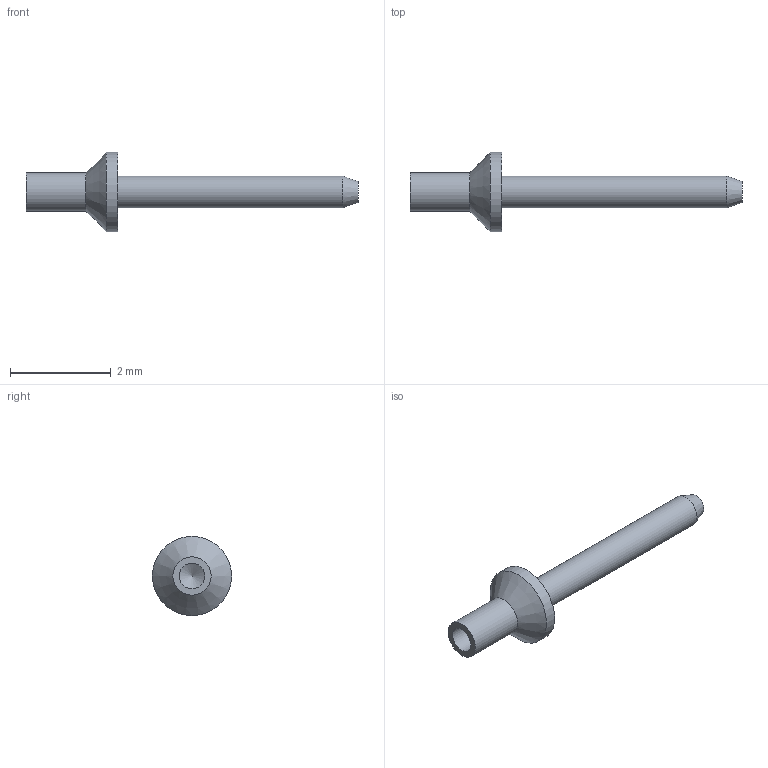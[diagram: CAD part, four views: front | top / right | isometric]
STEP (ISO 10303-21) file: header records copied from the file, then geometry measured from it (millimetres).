
FILE_DESCRIPTION(/* description */ (''),/* implementation_level */ '2;1');
FILE_NAME(/* name */ 'Z:\STEP folder\460388901.ipt.stp',/* time_stamp */ '2016-12-21T13:06:56+00:00',/* author */ ('Paul Karlsons'),/* organization */ (''),/* preprocessor_version */ 'ST-DEVELOPER v15.2',/* originating_system */ 'Autodesk Inventor 2014',/* authorisation */ '');
FILE_SCHEMA (('AUTOMOTIVE_DESIGN { 1 0 10303 214 3 1 1 }'));
Length unit declared in the file: millimetre
Products named in the file (1): 460388901
Bounding box: 6.61 x 1.57 x 1.57 mm (x, y, z)
Volume: 2.8 mm3; surface area: 19.1 mm2
Topology: 1 solids, 1 shells, 10 faces, 17 edges, 10 vertices
Faces by surface type: cylinder 4, cone 3, plane 3
Full cylindrical faces by diameter (mm): 0.508 x1, 0.635 x1, 0.762 x1, 1.575 x1
Entity records: 215 total; most frequent: DIRECTION 40, CARTESIAN_POINT 29, AXIS2_PLACEMENT_3D 20, EDGE_LOOP 18, ORIENTED_EDGE 18, FACE_BOUND 10, ADVANCED_FACE 10, CIRCLE 9
